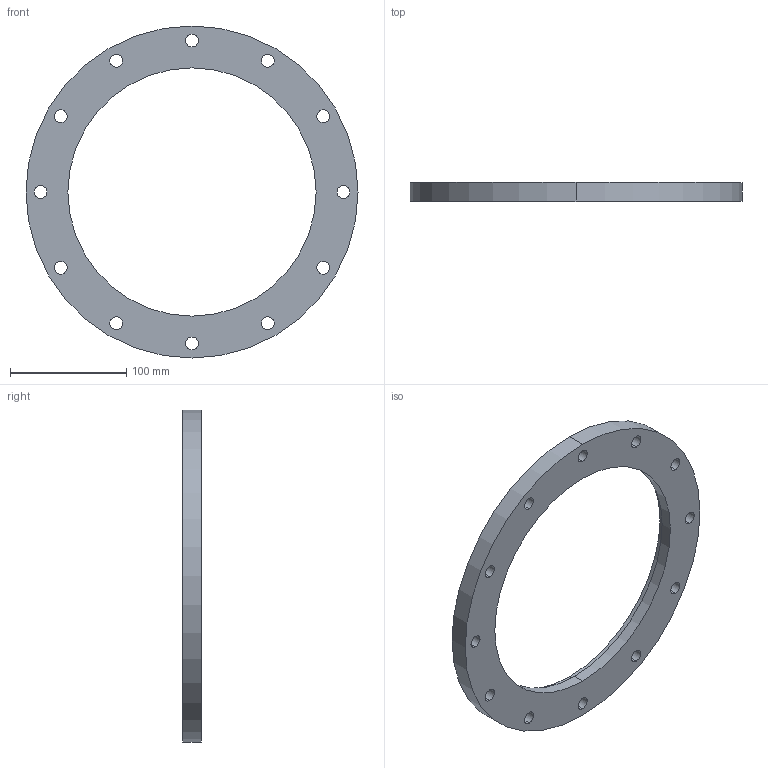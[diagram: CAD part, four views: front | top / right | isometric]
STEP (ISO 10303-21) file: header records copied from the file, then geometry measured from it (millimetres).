
FILE_DESCRIPTION (( 'STEP AP214' ), '1' );
FILE_NAME ('W5KL200.STEP', '2019-04-01T12:59:47', ( '' ), ( '' ), 'SwSTEP 2.0', 'SolidWorks 2018', '' );
FILE_SCHEMA (( 'AUTOMOTIVE_DESIGN' ));
Length unit declared in the file: millimetre
Products named in the file (1): W5KL200
Bounding box: 285 x 16 x 285 mm (x, y, z)
Volume: 417715.5 mm3; surface area: 85777.1 mm2
Topology: 1 solids, 1 shells, 33 faces, 90 edges, 60 vertices
Faces by surface type: cylinder 30, plane 3
Entity records: 1170 total; most frequent: DIRECTION 218, CARTESIAN_POINT 184, ORIENTED_EDGE 180, AXIS2_PLACEMENT_3D 94, EDGE_CURVE 90, EDGE_LOOP 60, CIRCLE 60, VERTEX_POINT 60
